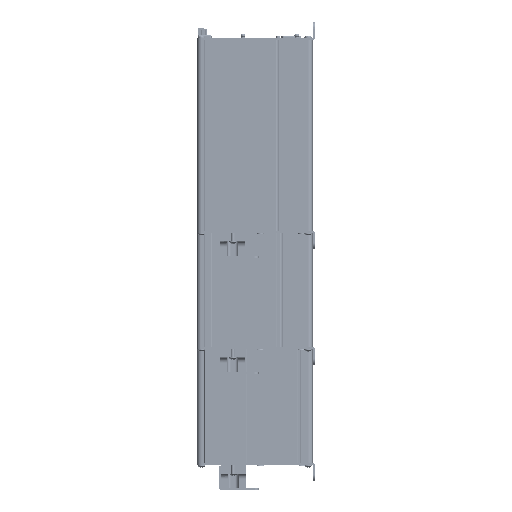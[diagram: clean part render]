
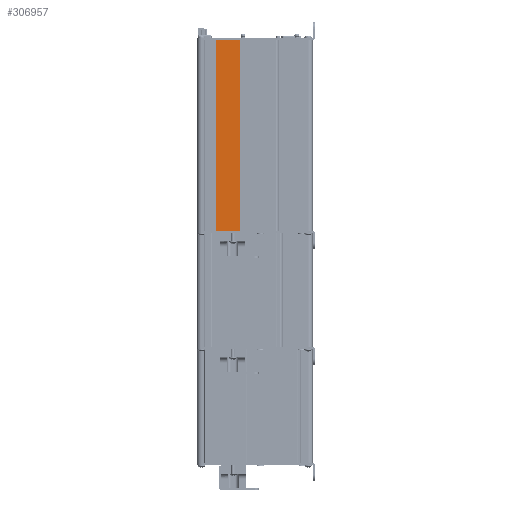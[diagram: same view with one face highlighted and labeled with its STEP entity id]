
A CAD part, left-side view. The second image highlights one B-rep face of the part: STEP entity #306957.
In plain terms, the highlighted planar face has unit normal (-1, 0, 0).
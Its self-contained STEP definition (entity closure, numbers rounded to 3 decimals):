
#21373=PLANE('',#327007);
#41486=LINE('',#520052,#68663);
#46601=LINE('',#547488,#73778);
#47037=LINE('',#548506,#74214);
#47038=LINE('',#548508,#74215);
#68663=VECTOR('',#379008,10.);
#73778=VECTOR('',#389589,10.);
#74214=VECTOR('',#390781,10.);
#74215=VECTOR('',#390784,10.);
#93963=FACE_OUTER_BOUND('',#111800,.T.);
#111800=EDGE_LOOP('',(#267810,#267811,#267812,#267813));
#141419=VERTEX_POINT('',#520049);
#141420=VERTEX_POINT('',#520051);
#146571=VERTEX_POINT('',#547485);
#146572=VERTEX_POINT('',#547487);
#179589=EDGE_CURVE('',#141419,#141420,#41486,.T.);
#187113=EDGE_CURVE('',#146571,#146572,#46601,.T.);
#187630=EDGE_CURVE('',#141419,#146572,#47037,.T.);
#187631=EDGE_CURVE('',#141420,#146571,#47038,.T.);
#267810=ORIENTED_EDGE('',*,*,#179589,.F.);
#267811=ORIENTED_EDGE('',*,*,#187630,.T.);
#267812=ORIENTED_EDGE('',*,*,#187113,.F.);
#267813=ORIENTED_EDGE('',*,*,#187631,.F.);
#306957=ADVANCED_FACE('',(#93963),#21373,.T.);
#327007=AXIS2_PLACEMENT_3D('',#548507,#390782,#390783);
#379008=DIRECTION('',(0.,1.,0.));
#389589=DIRECTION('',(0.,-1.,0.));
#390781=DIRECTION('',(0.,0.,1.));
#390782=DIRECTION('center_axis',(-1.,0.,0.));
#390783=DIRECTION('ref_axis',(0.,-1.,0.));
#390784=DIRECTION('',(0.,0.,1.));
#520049=CARTESIAN_POINT('',(-74.516,22.882,-138.365));
#520051=CARTESIAN_POINT('',(-74.516,51.382,-138.365));
#520052=CARTESIAN_POINT('',(-74.516,22.882,-138.365));
#547485=CARTESIAN_POINT('',(-74.516,51.382,91.635));
#547487=CARTESIAN_POINT('',(-74.516,22.882,91.635));
#547488=CARTESIAN_POINT('',(-74.516,22.882,91.635));
#548506=CARTESIAN_POINT('',(-74.516,22.882,-138.365));
#548507=CARTESIAN_POINT('Origin',(-74.516,51.382,-138.365));
#548508=CARTESIAN_POINT('',(-74.516,51.382,-138.365));
